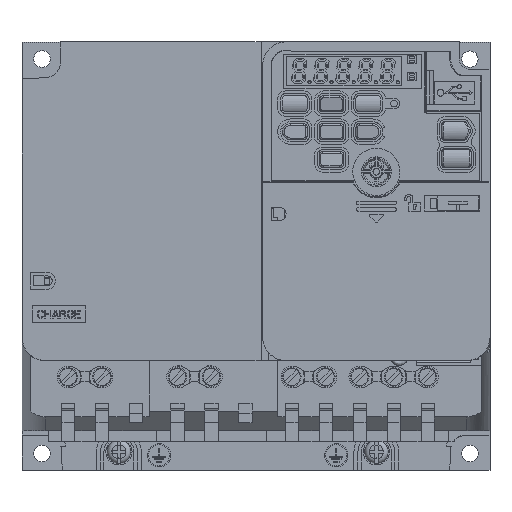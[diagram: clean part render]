
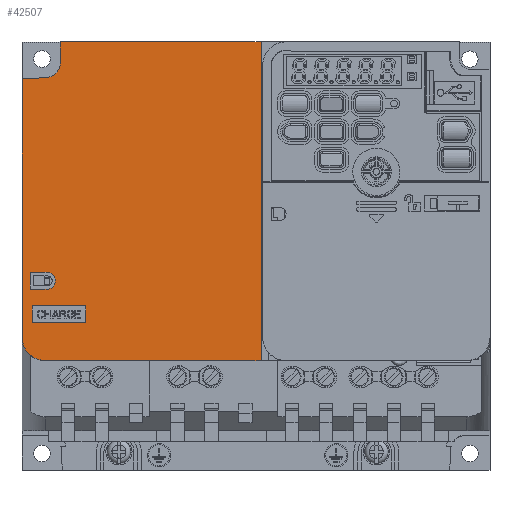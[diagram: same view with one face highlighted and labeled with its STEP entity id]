
A CAD part, top view. The second image highlights one B-rep face of the part: STEP entity #42507.
In plain terms, the highlighted planar face has unit normal (0, 0, 1).
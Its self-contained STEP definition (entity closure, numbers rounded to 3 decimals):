
#1753=CARTESIAN_POINT('',(-63.,39.6,163.));
#1754=DIRECTION('',(0.,0.,1.));
#1755=DIRECTION('',(-1.,0.,0.));
#1756=AXIS2_PLACEMENT_3D('',#1753,#1754,#1755);
#1758=DIRECTION('',(0.,-1.,0.));
#1759=VECTOR('',#1758,77.297);
#1760=CARTESIAN_POINT('',(-70.,116.897,163.));
#1761=LINE('',#1760,#1759);
#1762=DIRECTION('',(0.999,0.052,0.));
#1763=VECTOR('',#1762,7.245);
#1764=CARTESIAN_POINT('',(-70.,116.897,163.));
#1765=LINE('',#1764,#1763);
#1766=DIRECTION('',(0.,-1.,0.));
#1767=VECTOR('',#1766,6.23);
#1768=CARTESIAN_POINT('',(-58.5,128.,163.));
#1769=LINE('',#1768,#1767);
#1770=DIRECTION('',(-1.,0.,0.));
#1771=VECTOR('',#1770,60.);
#1772=CARTESIAN_POINT('',(1.5,128.,163.));
#1773=LINE('',#1772,#1771);
#1774=DIRECTION('',(0.,1.,0.));
#1775=VECTOR('',#1774,95.4);
#1776=CARTESIAN_POINT('',(1.5,32.6,163.));
#1777=LINE('',#1776,#1775);
#1778=DIRECTION('',(1.,0.,0.));
#1779=VECTOR('',#1778,64.5);
#1780=CARTESIAN_POINT('',(-63.,32.6,163.));
#1781=LINE('',#1780,#1779);
#1782=DIRECTION('',(-1.,0.,0.));
#1783=VECTOR('',#1782,5.);
#1784=CARTESIAN_POINT('',(-62.5,54.,163.));
#1785=LINE('',#1784,#1783);
#1786=CARTESIAN_POINT('',(-62.5,56.5,163.));
#1787=DIRECTION('',(0.,0.,-1.));
#1788=DIRECTION('',(0.,1.,0.));
#1789=AXIS2_PLACEMENT_3D('',#1786,#1787,#1788);
#1791=DIRECTION('',(1.,0.,0.));
#1792=VECTOR('',#1791,5.);
#1793=CARTESIAN_POINT('',(-67.5,59.,163.));
#1794=LINE('',#1793,#1792);
#1795=DIRECTION('',(0.,1.,0.));
#1796=VECTOR('',#1795,5.);
#1797=CARTESIAN_POINT('',(-67.5,54.,163.));
#1798=LINE('',#1797,#1796);
#1799=DIRECTION('',(0.,-1.,0.));
#1800=VECTOR('',#1799,5.);
#1801=CARTESIAN_POINT('',(-67.,49.,163.));
#1802=LINE('',#1801,#1800);
#1803=DIRECTION('',(1.,0.,0.));
#1804=VECTOR('',#1803,16.);
#1805=CARTESIAN_POINT('',(-67.,44.,163.));
#1806=LINE('',#1805,#1804);
#1807=DIRECTION('',(0.,1.,0.));
#1808=VECTOR('',#1807,5.);
#1809=CARTESIAN_POINT('',(-51.,44.,163.));
#1810=LINE('',#1809,#1808);
#1811=DIRECTION('',(-1.,0.,0.));
#1812=VECTOR('',#1811,16.);
#1813=CARTESIAN_POINT('',(-51.,49.,163.));
#1814=LINE('',#1813,#1812);
#1824=CARTESIAN_POINT('',(-63.,121.77,163.));
#1825=DIRECTION('',(0.,0.,-1.));
#1826=DIRECTION('',(1.,0.,0.));
#1827=AXIS2_PLACEMENT_3D('',#1824,#1825,#1826);
#35316=CARTESIAN_POINT('',(1.5,32.6,163.));
#35317=CARTESIAN_POINT('',(1.5,128.,163.));
#35318=VERTEX_POINT('',#35316);
#35319=VERTEX_POINT('',#35317);
#36236=CARTESIAN_POINT('',(-58.5,128.,163.));
#36237=VERTEX_POINT('',#36236);
#36250=CARTESIAN_POINT('',(-67.,49.,163.));
#36251=VERTEX_POINT('',#36250);
#36252=CARTESIAN_POINT('',(-67.,44.,163.));
#36253=VERTEX_POINT('',#36252);
#36254=CARTESIAN_POINT('',(-51.,44.,163.));
#36255=VERTEX_POINT('',#36254);
#36256=CARTESIAN_POINT('',(-51.,49.,163.));
#36257=VERTEX_POINT('',#36256);
#37289=CARTESIAN_POINT('',(-70.,116.897,163.));
#37291=VERTEX_POINT('',#37289);
#37293=CARTESIAN_POINT('',(-62.764,117.277,163.));
#37295=VERTEX_POINT('',#37293);
#37297=CARTESIAN_POINT('',(-58.5,121.77,163.));
#37299=VERTEX_POINT('',#37297);
#37501=CARTESIAN_POINT('',(-62.5,54.,163.));
#37502=VERTEX_POINT('',#37501);
#37503=CARTESIAN_POINT('',(-62.5,59.,163.));
#37504=VERTEX_POINT('',#37503);
#37505=CARTESIAN_POINT('',(-67.5,54.,163.));
#37506=VERTEX_POINT('',#37505);
#37507=CARTESIAN_POINT('',(-67.5,59.,163.));
#37508=VERTEX_POINT('',#37507);
#39339=CARTESIAN_POINT('',(-70.,39.6,163.));
#39341=VERTEX_POINT('',#39339);
#39343=CARTESIAN_POINT('',(-63.,32.6,163.));
#39344=VERTEX_POINT('',#39343);
#42466=CARTESIAN_POINT('',(0.,0.,163.));
#42467=DIRECTION('',(0.,0.,1.));
#42468=DIRECTION('',(1.,0.,0.));
#42469=AXIS2_PLACEMENT_3D('',#42466,#42467,#42468);
#42470=PLANE('',#42469);
#42471=ORIENTED_EDGE('',*,*,#42449,.F.);
#42472=ORIENTED_EDGE('',*,*,#42261,.F.);
#42474=ORIENTED_EDGE('',*,*,#42473,.T.);
#42476=ORIENTED_EDGE('',*,*,#42475,.F.);
#42478=ORIENTED_EDGE('',*,*,#42477,.F.);
#42480=ORIENTED_EDGE('',*,*,#42479,.F.);
#42482=ORIENTED_EDGE('',*,*,#42481,.F.);
#42484=ORIENTED_EDGE('',*,*,#42483,.F.);
#42485=EDGE_LOOP('',(#42471,#42472,#42474,#42476,#42478,#42480,#42482,#42484));
#42486=FACE_OUTER_BOUND('',#42485,.F.);
#42488=ORIENTED_EDGE('',*,*,#42487,.F.);
#42490=ORIENTED_EDGE('',*,*,#42489,.F.);
#42492=ORIENTED_EDGE('',*,*,#42491,.F.);
#42494=ORIENTED_EDGE('',*,*,#42493,.F.);
#42495=EDGE_LOOP('',(#42488,#42490,#42492,#42494));
#42496=FACE_BOUND('',#42495,.F.);
#42498=ORIENTED_EDGE('',*,*,#42497,.T.);
#42500=ORIENTED_EDGE('',*,*,#42499,.T.);
#42502=ORIENTED_EDGE('',*,*,#42501,.T.);
#42504=ORIENTED_EDGE('',*,*,#42503,.T.);
#42505=EDGE_LOOP('',(#42498,#42500,#42502,#42504));
#42506=FACE_BOUND('',#42505,.F.);
#1757=CIRCLE('',#1756,7.);
#1790=CIRCLE('',#1789,2.5);
#1828=CIRCLE('',#1827,4.5);
#42261=EDGE_CURVE('',#37291,#39341,#1761,.T.);
#42449=EDGE_CURVE('',#39341,#39344,#1757,.T.);
#42473=EDGE_CURVE('',#37291,#37295,#1765,.T.);
#42475=EDGE_CURVE('',#37299,#37295,#1828,.T.);
#42477=EDGE_CURVE('',#36237,#37299,#1769,.T.);
#42479=EDGE_CURVE('',#35319,#36237,#1773,.T.);
#42481=EDGE_CURVE('',#35318,#35319,#1777,.T.);
#42483=EDGE_CURVE('',#39344,#35318,#1781,.T.);
#42487=EDGE_CURVE('',#37502,#37506,#1785,.T.);
#42489=EDGE_CURVE('',#37504,#37502,#1790,.T.);
#42491=EDGE_CURVE('',#37508,#37504,#1794,.T.);
#42493=EDGE_CURVE('',#37506,#37508,#1798,.T.);
#42497=EDGE_CURVE('',#36251,#36253,#1802,.T.);
#42499=EDGE_CURVE('',#36253,#36255,#1806,.T.);
#42501=EDGE_CURVE('',#36255,#36257,#1810,.T.);
#42503=EDGE_CURVE('',#36257,#36251,#1814,.T.);
#42507=ADVANCED_FACE('',(#42486,#42496,#42506),#42470,.T.);
